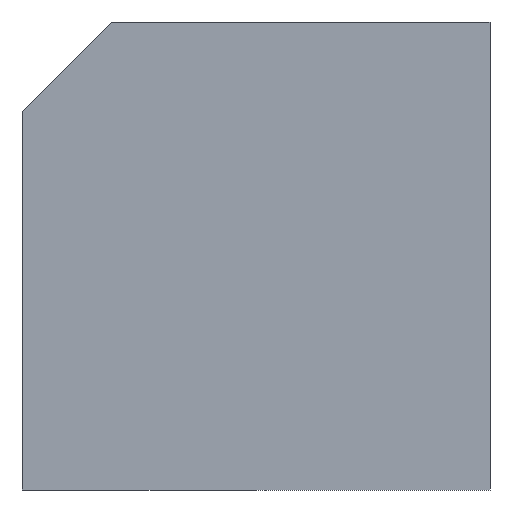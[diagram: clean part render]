
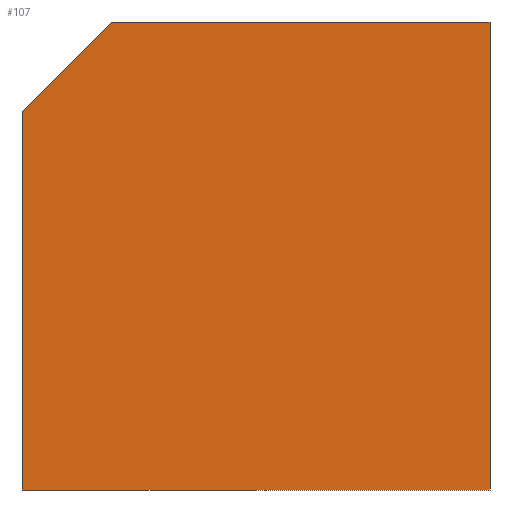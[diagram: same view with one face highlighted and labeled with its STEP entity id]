
A CAD part, left-side view. The second image highlights one B-rep face of the part: STEP entity #107.
In plain terms, the highlighted planar face has unit normal (-1, 0, 0).
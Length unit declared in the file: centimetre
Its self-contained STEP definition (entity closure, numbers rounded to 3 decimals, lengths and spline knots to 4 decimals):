
#4 = EDGE_CURVE ( 'NONE', #243, #118, #164, .T. ) ;
#8 = ORIENTED_EDGE ( 'NONE', *, *, #134, .T. ) ;
#12 = CARTESIAN_POINT ( 'NONE',  ( 0., 1000., 1000. ) ) ;
#33 = LINE ( 'NONE', #12, #146 ) ;
#37 = FACE_OUTER_BOUND ( 'NONE', #301, .T. ) ;
#38 = EDGE_CURVE ( 'NONE', #52, #68, #155, .T. ) ;
#52 = VERTEX_POINT ( 'NONE', #318 ) ;
#68 = VERTEX_POINT ( 'NONE', #216 ) ;
#71 = CARTESIAN_POINT ( 'NONE',  ( 0., 1000., 809.0938 ) ) ;
#107 = ADVANCED_FACE ( 'NONE', ( #37 ), #135, .F. ) ;
#110 = DIRECTION ( 'NONE',  ( 0., -1., 0. ) ) ;
#114 = CARTESIAN_POINT ( 'NONE',  ( 0., 809.0938, 1000. ) ) ;
#118 = VERTEX_POINT ( 'NONE', #71 ) ;
#132 = VECTOR ( 'NONE', #110, 100. ) ;
#134 = EDGE_CURVE ( 'NONE', #118, #52, #194, .T. ) ;
#135 = PLANE ( 'NONE',  #259 ) ;
#140 = VERTEX_POINT ( 'NONE', #149 ) ;
#146 = VECTOR ( 'NONE', #181, 100. ) ;
#147 = EDGE_CURVE ( 'NONE', #140, #68, #334, .T. ) ;
#149 = CARTESIAN_POINT ( 'NONE',  ( 0., 0., 1000. ) ) ;
#150 = ORIENTED_EDGE ( 'NONE', *, *, #38, .T. ) ;
#155 = LINE ( 'NONE', #189, #132 ) ;
#163 = CARTESIAN_POINT ( 'NONE',  ( 0., 809.0938, 1000. ) ) ;
#164 = LINE ( 'NONE', #114, #330 ) ;
#170 = CARTESIAN_POINT ( 'NONE',  ( 0., 1000., 1000. ) ) ;
#173 = ORIENTED_EDGE ( 'NONE', *, *, #4, .T. ) ;
#174 = DIRECTION ( 'NONE',  ( 0., 0., -1. ) ) ;
#181 = DIRECTION ( 'NONE',  ( 0., -1., 0. ) ) ;
#185 = VECTOR ( 'NONE', #199, 100. ) ;
#189 = CARTESIAN_POINT ( 'NONE',  ( 0., 1000., 0. ) ) ;
#194 = LINE ( 'NONE', #170, #185 ) ;
#199 = DIRECTION ( 'NONE',  ( 0., 0., -1. ) ) ;
#205 = VECTOR ( 'NONE', #174, 100. ) ;
#216 = CARTESIAN_POINT ( 'NONE',  ( 0., 0., 0. ) ) ;
#243 = VERTEX_POINT ( 'NONE', #163 ) ;
#249 = ORIENTED_EDGE ( 'NONE', *, *, #333, .F. ) ;
#259 = AXIS2_PLACEMENT_3D ( 'NONE', #287, #291, #264 ) ;
#264 = DIRECTION ( 'NONE',  ( 0., 0., -1. ) ) ;
#287 = CARTESIAN_POINT ( 'NONE',  ( 0., 1000., 1000. ) ) ;
#291 = DIRECTION ( 'NONE',  ( 1., 0., 0. ) ) ;
#294 = DIRECTION ( 'NONE',  ( 0., 0.707, -0.707 ) ) ;
#296 = ORIENTED_EDGE ( 'NONE', *, *, #147, .F. ) ;
#300 = CARTESIAN_POINT ( 'NONE',  ( 0., 0., 1000. ) ) ;
#301 = EDGE_LOOP ( 'NONE', ( #249, #173, #8, #150, #296 ) ) ;
#318 = CARTESIAN_POINT ( 'NONE',  ( 0., 1000., 0. ) ) ;
#330 = VECTOR ( 'NONE', #294, 100. ) ;
#333 = EDGE_CURVE ( 'NONE', #243, #140, #33, .T. ) ;
#334 = LINE ( 'NONE', #300, #205 ) ;
